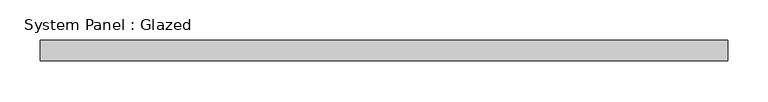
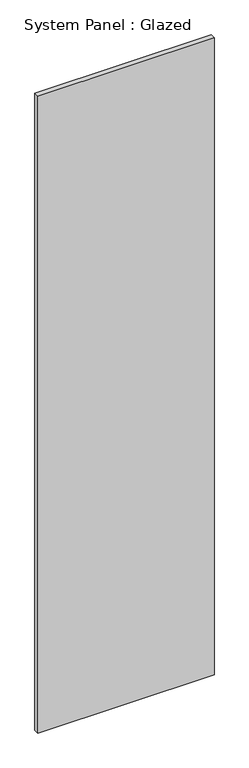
"""IFC4 building model written with IfcOpenShell, lengths in millimetres: plate geometry, System Panel : Glazed."""

from ifc_helpers import new_model, si_unit, origin, origin_with_axes, place, context, project, spatial, polyline, outline, extrude, source, transform, mapped, element, save


def system_panel_glazed_1ee91bb5(model_context):
    return source(origin(), model_context, "Body", "SweptSolid", [
        extrude(outline(polyline([(425.0, -49.5), (-425.0, -49.5), (-425.0, -24.5), (425.0, -24.5), (425.0, -49.5)])), origin_with_axes(), (0.0, 0.0, 1.0), 3250.0),
    ])


if __name__ == "__main__":
    model = new_model("IFC4")
    model_context = context("Model", 3, world=origin())
    ifc_project = project(units=[si_unit("LENGTHUNIT", "METRE", prefix="MILLI")], contexts=[model_context])
    site = spatial("IfcSite", under=ifc_project)
    building = spatial("IfcBuilding", under=site)
    placement = place(None, origin())
    system_panel_glazed_shape = system_panel_glazed_1ee91bb5(model_context)
    element("IfcPlate", 1, ObjectType="System Panel : Glazed", at=placement, inside=building, context=model_context, shape_type="MappedRepresentation", body=[
        mapped(system_panel_glazed_shape, transform((0.0, 0.0, 0.0), x_axis=(1.0, 0.0, 0.0), y_axis=(0.0, 1.0, 0.0), z_axis=(0.0, 0.0, 1.0))),
    ])
    save(model, "model.ifc")
